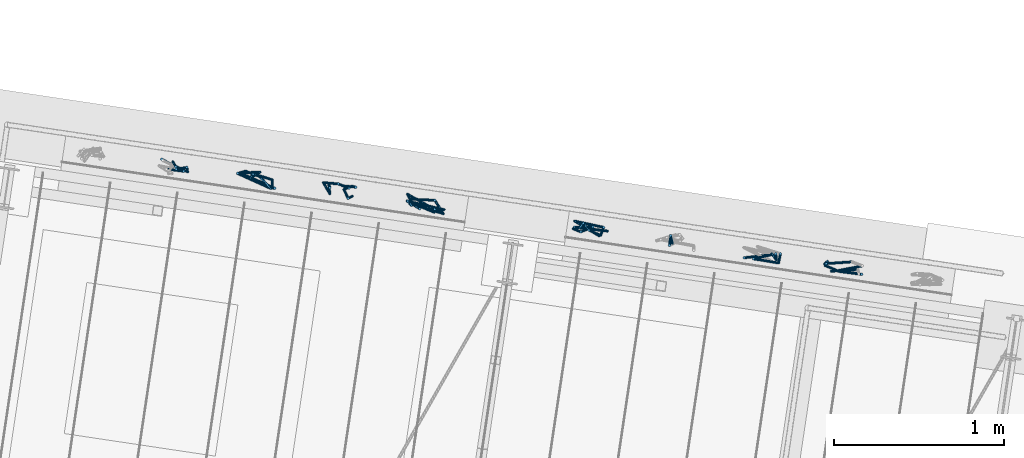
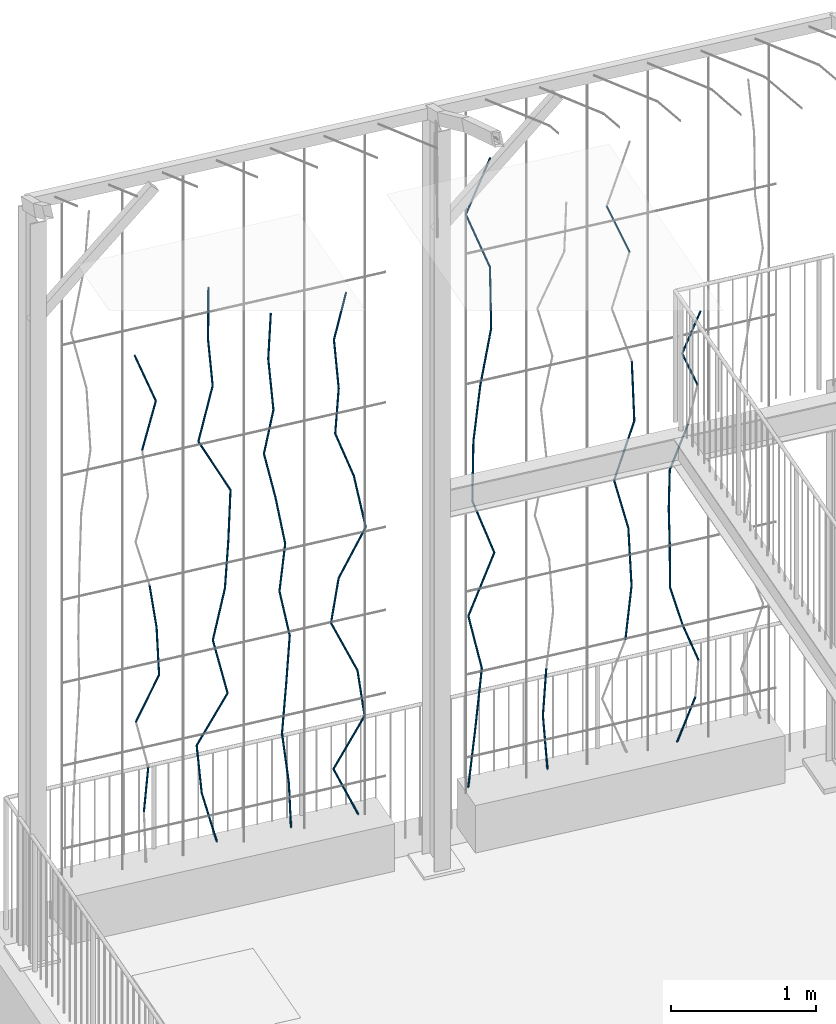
# One storey, part 109 of 142: 67 members, 1 element without a shape of its own.
"""IFC4 building model written with IfcOpenShell, lengths in metres."""

import ifcopenshell
import ifcopenshell.guid

model = None  # the IFC model being written
_history = None  # IfcOwnerHistory: only IFC2X3 demands one
_inside = {}  # id of a spatial element -> (the spatial element, [elements in it])
_under = {}  # id of a project, library or spatial element -> (it, [spatial elements below it])
_declared = {}  # id of a project -> (the project, [libraries it declares])
_typed = {}  # id of a type object -> (the type object, [elements of that type])
_made_of = {}  # id of a material, layer set ... -> (it, [elements and type objects made of it])


def new_model(schema):
    """Start an empty IFC model of exactly this schema.

    Asked for "IFC4X3", IfcOpenShell would pick the latest addendum, in which some entities
    have other attributes; the version numbers below select the first issue.
    IFC2X3 requires an IfcOwnerHistory on every rooted entity: one is made here for all.
    """
    global model, _history
    if schema == "IFC4X3":
        model = ifcopenshell.file(schema_version=(4, 3, 0, 0))
    else:
        model = ifcopenshell.file(schema=schema)
    _inside.clear()
    _under.clear()
    _declared.clear()
    _typed.clear()
    _made_of.clear()
    _history = None
    if model.schema == "IFC2X3":
        org = make("IfcOrganization", Name="unknown")
        user = make(
            "IfcPersonAndOrganization",
            ThePerson=make("IfcPerson", FamilyName="unknown"),
            TheOrganization=org,
        )
        app = make(
            "IfcApplication",
            ApplicationDeveloper=org,
            Version="unknown",
            ApplicationFullName="unknown",
            ApplicationIdentifier="unknown",
        )
        _history = make(
            "IfcOwnerHistory",
            OwningUser=user,
            OwningApplication=app,
            ChangeAction="ADDED",
            CreationDate=0,
        )
    return model


def make(cls, **values):
    """One entity of the class cls with the attributes given. An attribute that is None is left unset."""
    return model.create_entity(
        cls, **{name: value for name, value in values.items() if value is not None}
    )


def rooted(cls, **values):
    """An entity with a GlobalId (a new one), such as an element, a storey or a relation."""
    return make(cls, GlobalId=ifcopenshell.guid.new(), OwnerHistory=_history, **values)


def si_unit(unit_type, name, prefix=None):
    """IfcSIUnit, for example si_unit("LENGTHUNIT", "METRE", prefix="MILLI")."""
    return make("IfcSIUnit", UnitType=unit_type, Prefix=prefix, Name=name)


def assignment(units):
    """IfcUnitAssignment: the units of a project."""
    return None if units is None else make("IfcUnitAssignment", Units=units)


def point(xyz):
    """IfcCartesianPoint."""
    return None if xyz is None else make("IfcCartesianPoint", Coordinates=xyz)


def direction(xyz):
    """IfcDirection."""
    return None if xyz is None else make("IfcDirection", DirectionRatios=xyz)


def frame(location, z_axis=None, x_axis=None):
    """IfcAxis2Placement3D, a coordinate frame: its origin and axes. An axis left out is left unset."""
    return make(
        "IfcAxis2Placement3D",
        Location=point(location),
        Axis=direction(z_axis),
        RefDirection=direction(x_axis),
    )


def origin_with_axes():
    """The frame at (0, 0, 0) with the z axis (0, 0, 1) and the x axis (1, 0, 0) written out."""
    return frame((0.0, 0.0, 0.0), z_axis=(0.0, 0.0, 1.0), x_axis=(1.0, 0.0, 0.0))


def place(relative_to, where):
    """IfcLocalPlacement: puts the frame where relative to a parent placement (None: the world)."""
    return make(
        "IfcLocalPlacement", PlacementRelTo=relative_to, RelativePlacement=where
    )


def context(
    kind, dimensions, precision=None, world=None, true_north=None, identifier=None
):
    """IfcGeometricRepresentationContext, for example the 3D "Model" context."""
    return make(
        "IfcGeometricRepresentationContext",
        ContextIdentifier=identifier,
        ContextType=kind,
        CoordinateSpaceDimension=dimensions,
        Precision=precision,
        WorldCoordinateSystem=world,
        TrueNorth=true_north,
    )


def subcontext(parent, identifier, kind, view, scale=None):
    """IfcGeometricRepresentationSubContext, for example "Body" below "Model"."""
    return make(
        "IfcGeometricRepresentationSubContext",
        ContextIdentifier=identifier,
        ContextType=kind,
        ParentContext=parent,
        TargetScale=scale,
        TargetView=view,
    )


def project(units=None, contexts=None):
    """IfcProject with its units and contexts."""
    return rooted(
        "IfcProject",
        Name="project",
        RepresentationContexts=contexts,
        UnitsInContext=assignment(units),
    )


def spatial(cls, under=None, at=None, **own):
    """A site, building, storey or space (cls), placed at a placement, below another one or the project."""
    s = rooted(cls, ObjectPlacement=at, **own)
    if under is not None:
        _under.setdefault(under.id(), (under, []))[1].append(s)
    return s


def profile(cls, at=None, kind="AREA", **sizes):
    """A parametric profile (cls). Its sizes go by their IFC names, for example OverallWidth=200.0."""
    return make(cls, ProfileType=kind, Position=at, **sizes)


def circle(**sizes):
    """IfcCircleProfileDef."""
    return profile("IfcCircleProfileDef", **sizes)


def extrude(swept, where, along, depth):
    """IfcExtrudedAreaSolid: the profile swept, set in the frame where, extruded along a direction by depth."""
    return make(
        "IfcExtrudedAreaSolid",
        SweptArea=swept,
        Position=where,
        ExtrudedDirection=direction(along),
        Depth=depth,
    )


def shape(context_of_items, identifier, shape_type, items):
    """IfcShapeRepresentation: the items that make up one representation, for example the "Body"."""
    return make(
        "IfcShapeRepresentation",
        ContextOfItems=context_of_items,
        RepresentationIdentifier=identifier,
        RepresentationType=shape_type,
        Items=items,
    )


def material(Name=None, Category=None):
    """IfcMaterial."""
    return make("IfcMaterial", Name=Name, Category=Category)


def material_profile(
    of_material, cross_section, Name=None, Category=None, Priority=None
):
    """IfcMaterialProfile: a cross section and its material."""
    return make(
        "IfcMaterialProfile",
        Name=Name,
        Material=of_material,
        Profile=cross_section,
        Priority=Priority,
        Category=Category,
    )


def profile_set(profiles, Name=None, composite=None):
    """IfcMaterialProfileSet."""
    return make(
        "IfcMaterialProfileSet",
        Name=Name,
        MaterialProfiles=profiles,
        CompositeProfile=composite,
    )


def profile_usage(for_profile_set, cardinal=None, extent=None):
    """IfcMaterialProfileSetUsage: how a profile set lies along its element."""
    return make(
        "IfcMaterialProfileSetUsage",
        ForProfileSet=for_profile_set,
        CardinalPoint=cardinal,
        ReferenceExtent=extent,
    )


def made_of(thing, what):
    """Note that an element or type object is made of a material, layer set ...; save() writes the relation."""
    if what is not None:
        _made_of.setdefault(what.id(), (what, []))[1].append(thing)
    return thing


def type_object(cls, material=None, **own):
    """A type object (cls), such as IfcWallType, which elements share."""
    return made_of(rooted(cls, **own), material)


def element(
    cls,
    number,
    at=None,
    inside=None,
    cuts=None,
    type_object=None,
    material=None,
    context=None,
    identifier="Body",
    shape_type=None,
    held_by="IfcProductDefinitionShape",
    body=None,
    shapes=None,
    **own,
):
    """One element of the class cls, such as IfcWall. Its Tag is "e" and its number.

    at: its placement. inside: the storey or other place that contains it. cuts: it is an
    opening in that element (IfcRelVoidsElement). A single representation is given by context,
    identifier, shape_type and body (its items); several are given by shapes. held_by: the class
    of the entity that holds the representations. save() writes the other relations.
    """
    e = rooted(cls, Tag="e%d" % number, ObjectPlacement=at, **own)
    if body is not None:
        shapes = [shape(context, identifier, shape_type, body)]
    if shapes is not None:
        e.Representation = make(held_by, Representations=shapes)
    if inside is not None:
        _inside.setdefault(inside.id(), (inside, []))[1].append(e)
    if cuts is not None:
        rooted(
            "IfcRelVoidsElement", RelatingBuildingElement=cuts, RelatedOpeningElement=e
        )
    if type_object is not None:
        _typed.setdefault(type_object.id(), (type_object, []))[1].append(e)
    return made_of(e, material)


def aggregate(whole, parts):
    """IfcRelAggregates: a whole, such as a stair, and the parts it consists of."""
    return rooted("IfcRelAggregates", RelatingObject=whole, RelatedObjects=parts)


def save(model, path):
    """Write the relations noted so far, then the file.

    IfcRelAggregates (storeys below a building ...), IfcRelContainedInSpatialStructure (elements
    in a storey), IfcRelDefinesByType, IfcRelAssociatesMaterial and IfcRelDeclares: one each for
    every whole, place, type object, material and project.
    """
    for whole, parts in _under.values():
        aggregate(whole, parts)
    for where, things in _inside.values():
        rooted(
            "IfcRelContainedInSpatialStructure",
            RelatedElements=things,
            RelatingStructure=where,
        )
    for kind, things in _typed.values():
        rooted("IfcRelDefinesByType", RelatedObjects=things, RelatingType=kind)
    for what, things in _made_of.values():
        rooted("IfcRelAssociatesMaterial", RelatedObjects=things, RelatingMaterial=what)
    for by, libraries in _declared.values():
        rooted("IfcRelDeclares", RelatingContext=by, RelatedDefinitions=libraries)
    model.write(path)


model = new_model("IFC4")

# Units and contexts
model_context = context("Model", 3, precision=1e-05, world=origin_with_axes(), true_north=direction((0.0, 1.0)))
body_context = subcontext(model_context, "Body", "Model", "MODEL_VIEW")
ifc_project = project(units=[si_unit("VOLUMEUNIT", "CUBIC_METRE"), si_unit("LENGTHUNIT", "METRE"), si_unit("AREAUNIT", "SQUARE_METRE")], contexts=[model_context])

# Site, building, storey
site_placement = place(None, origin_with_axes())
site = spatial("IfcSite", under=ifc_project, at=site_placement, Name="Lares · Rua das Mercês · artigo 4771")
building_placement = place(site_placement, frame((12.0, 10.2, 13.9), z_axis=(0.0, 0.0, 1.0), x_axis=(0.989015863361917, -0.147809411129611, 0.0)))
building = spatial("IfcBuilding", under=site, at=building_placement, Name="Casa Sobreposta")
storey_placement = place(building_placement, origin_with_axes())
storey = spatial("IfcBuildingStorey", under=building, at=storey_placement, Name="00 · Habitação e estacionamento", Elevation=13.9)

# Assembly, members
assembly_placement = place(storey_placement, origin_with_axes())
assembly = element("IfcElementAssembly", 1, at=assembly_placement, inside=storey, Name="Fachada sul e pátio · estrutura e trepadeiras", ObjectType="LIVING_SHADE_TRELLIS", PredefinedType="USERDEFINED")
ifc_material = material(Name="Ramos de trepadeiras", Category="wood")
ifc_material_profile = material_profile(ifc_material, circle(Radius=0.0075))
ifc_profile_set = profile_set([ifc_material_profile], Name="D0.015")
ifc_profile_usage_1 = profile_usage(ifc_profile_set)
member_type = type_object("IfcMemberType", Name="D0.015 / vine_wood", PredefinedType="NOTDEFINED", material=ifc_profile_set)
member_1_placement = place(assembly_placement, frame((-5.05351931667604, 6.57821187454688, 0.736166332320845), z_axis=(0.0556737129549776, -0.068234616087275, 0.996114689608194), x_axis=(-0.774817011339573, -0.632185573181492, 0.0)))
member_1 = element("IfcMember", 2, at=member_1_placement, type_object=member_type, material=ifc_profile_usage_1, Name="Trepadeiras · ramo", context=body_context, shape_type="SweptSolid", body=[
    extrude(circle(Radius=0.0075), origin_with_axes(), (0.0, 0.0, 1.0), 0.387672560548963),
])
ifc_profile_usage_2 = profile_usage(ifc_profile_set)
member_2_placement = place(assembly_placement, frame((-5.11315277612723, 6.57770099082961, 1.50849899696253), z_axis=(0.369026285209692, -0.107377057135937, 0.923195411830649), x_axis=(-0.279387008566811, -0.960178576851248, -1.66678120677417e-17)))
member_2 = element("IfcMember", 3, at=member_2_placement, type_object=member_type, material=ifc_profile_usage_2, Name="Trepadeiras · ramo", context=body_context, shape_type="SweptSolid", body=[
    extrude(circle(Radius=0.0075), origin_with_axes(), (0.0, 0.0, 1.0), 0.41829316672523),
])
ifc_profile_usage_3 = profile_usage(ifc_profile_set)
member_3_placement = place(assembly_placement, frame((-4.95879160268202, 6.53278590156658, 1.89466532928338), z_axis=(-0.0229513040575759, 0.0642605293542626, 0.997669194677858), x_axis=(0.941736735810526, 0.336350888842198, 3.17038529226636e-18)))
member_3 = element("IfcMember", 4, at=member_3_placement, type_object=member_type, material=ifc_profile_usage_3, Name="Trepadeiras · ramo", context=body_context, shape_type="SweptSolid", body=[
    extrude(circle(Radius=0.0075), origin_with_axes(), (0.0, 0.0, 1.0), 0.387068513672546),
])
ifc_profile_usage_4 = profile_usage(ifc_profile_set)
member_4_placement = place(assembly_placement, frame((-4.96767532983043, 6.55765912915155, 2.28083166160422), z_axis=(-0.154656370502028, -0.0516676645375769, 0.986616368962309), x_axis=(-0.316865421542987, 0.948470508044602, 0.0)))
member_4 = element("IfcMember", 5, at=member_4_placement, type_object=member_type, material=ifc_profile_usage_4, Name="Trepadeiras · ramo", context=body_context, shape_type="SweptSolid", body=[
    extrude(circle(Radius=0.0075), origin_with_axes(), (0.0, 0.0, 1.0), 0.391404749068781),
])
ifc_profile_usage_5 = profile_usage(ifc_profile_set)
member_5_placement = place(assembly_placement, frame((-5.08541268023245, 6.53013009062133, 3.8254969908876), z_axis=(0.256565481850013, 0.00653359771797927, 0.966504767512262), x_axis=(0.0254573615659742, -0.999675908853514, 0.0)))
member_5 = element("IfcMember", 6, at=member_5_placement, type_object=member_type, material=ifc_profile_usage_5, Name="Trepadeiras · ramo", context=body_context, shape_type="SweptSolid", body=[
    extrude(circle(Radius=0.0075), origin_with_axes(), (0.0, 0.0, 1.0), 0.39954933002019),
])
ifc_profile_usage_6 = profile_usage(ifc_profile_set)
member_6_placement = place(assembly_placement, frame((-4.98290211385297, 6.53274058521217, 4.21166332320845), z_axis=(-0.333263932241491, 0.122975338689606, 0.934779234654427), x_axis=(0.346185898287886, 0.938165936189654, 0.0)))
member_6 = element("IfcMember", 7, at=member_6_placement, type_object=member_type, material=ifc_profile_usage_6, Name="Trepadeiras · ramo", context=body_context, shape_type="SweptSolid", body=[
    extrude(circle(Radius=0.0075), origin_with_axes(), (0.0, 0.0, 1.0), 0.413109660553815),
])
ifc_profile_usage_7 = profile_usage(ifc_profile_set)
member_7_placement = place(assembly_placement, frame((-4.516484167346, 6.56319348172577, 0.35), z_axis=(-0.237502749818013, 0.0547067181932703, 0.969845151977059), x_axis=(0.224463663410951, 0.974482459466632, 0.0)))
member_7 = element("IfcMember", 8, at=member_7_placement, type_object=member_type, material=ifc_profile_usage_7, Name="Trepadeiras · ramo", context=body_context, shape_type="SweptSolid", body=[
    extrude(circle(Radius=0.0075), origin_with_axes(), (0.0, 0.0, 1.0), 0.439365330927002),
])
ifc_profile_usage_8 = profile_usage(ifc_profile_set)
member_8_placement = place(assembly_placement, frame((-4.62083464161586, 6.58722971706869, 0.776116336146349), z_axis=(-0.106307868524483, -0.0477073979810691, 0.993188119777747), x_axis=(-0.409428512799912, 0.912342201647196, 0.0)))
member_8 = element("IfcMember", 9, at=member_8_placement, type_object=member_type, material=ifc_profile_usage_8, Name="Trepadeiras · ramo", context=body_context, shape_type="SweptSolid", body=[
    extrude(circle(Radius=0.0075), origin_with_axes(), (0.0, 0.0, 1.0), 0.429038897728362),
])
ifc_profile_usage_9 = profile_usage(ifc_profile_set)
member_9_placement = place(assembly_placement, frame((-4.66644485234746, 6.5667613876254, 1.2022326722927), z_axis=(0.43290575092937, -0.123104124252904, 0.892993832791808), x_axis=(-0.273522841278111, -0.961865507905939, 0.0)))
member_9 = element("IfcMember", 10, at=member_9_placement, type_object=member_type, material=ifc_profile_usage_9, Name="Trepadeiras · ramo", context=body_context, shape_type="SweptSolid", body=[
    extrude(circle(Radius=0.0075), origin_with_axes(), (0.0, 0.0, 1.0), 0.47717724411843),
])
ifc_profile_usage_10 = profile_usage(ifc_profile_set)
member_10_placement = place(assembly_placement, frame((-4.45987207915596, 6.50801890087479, 1.62834900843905), z_axis=(-0.190491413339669, 0.14988591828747, 0.970178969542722), x_axis=(0.618367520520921, 0.785889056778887, 0.0)))
member_10 = element("IfcMember", 11, at=member_10_placement, type_object=member_type, material=ifc_profile_usage_10, Name="Trepadeiras · ramo", context=body_context, shape_type="SweptSolid", body=[
    extrude(circle(Radius=0.0075), origin_with_axes(), (0.0, 0.0, 1.0), 0.43921415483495),
])
ifc_profile_usage_11 = profile_usage(ifc_profile_set)
member_11_placement = place(assembly_placement, frame((-4.54353860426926, 6.57385091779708, 2.0544653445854), z_axis=(0.1941509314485, -0.0330556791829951, 0.980414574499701), x_axis=(-0.167842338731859, -0.985813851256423, -4.3178291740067e-18)))
member_11 = element("IfcMember", 12, at=member_11_placement, type_object=member_type, material=ifc_profile_usage_11, Name="Trepadeiras · ramo", context=body_context, shape_type="SweptSolid", body=[
    extrude(circle(Radius=0.0075), origin_with_axes(), (0.0, 0.0, 1.0), 0.434628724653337),
])
ifc_profile_usage_12 = profile_usage(ifc_profile_set)
member_12_placement = place(assembly_placement, frame((-4.45915503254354, 6.55948397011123, 2.48058168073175), z_axis=(0.0144929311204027, -0.109943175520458, 0.993832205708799), x_axis=(-0.991423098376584, -0.130691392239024, 0.0)))
member_12 = element("IfcMember", 13, at=member_12_placement, type_object=member_type, material=ifc_profile_usage_12, Name="Trepadeiras · ramo", context=body_context, shape_type="SweptSolid", body=[
    extrude(circle(Radius=0.0075), origin_with_axes(), (0.0, 0.0, 1.0), 0.428760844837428),
])
ifc_profile_usage_13 = profile_usage(ifc_profile_set)
member_13_placement = place(assembly_placement, frame((-4.45294103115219, 6.51234464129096, 2.90669801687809), z_axis=(0.0391360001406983, 0.00180597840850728, 0.999232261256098), x_axis=(0.999233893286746, -7.07329602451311e-05, -0.0391359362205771)))
member_13 = element("IfcMember", 14, at=member_13_placement, type_object=member_type, material=ifc_profile_usage_13, Name="Trepadeiras · ramo", context=body_context, shape_type="SweptSolid", body=[
    extrude(circle(Radius=0.0075), origin_with_axes(), (0.0, 0.0, 1.0), 0.426443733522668),
])
ifc_profile_usage_14 = profile_usage(ifc_profile_set)
member_14_placement = place(assembly_placement, frame((-4.43625172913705, 6.51311478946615, 3.33281435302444), z_axis=(-0.448214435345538, 0.121140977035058, 0.885679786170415), x_axis=(0.26091291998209, 0.965362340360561, 0.0)))
member_14 = element("IfcMember", 15, at=member_14_placement, type_object=member_type, material=ifc_profile_usage_14, Name="Trepadeiras · ramo", context=body_context, shape_type="SweptSolid", body=[
    extrude(circle(Radius=0.0075), origin_with_axes(), (0.0, 0.0, 1.0), 0.481117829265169),
])
ifc_profile_usage_15 = profile_usage(ifc_profile_set)
member_15_placement = place(assembly_placement, frame((-4.6518956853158, 6.57139787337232, 3.75893068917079), z_axis=(0.26034641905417, 0.0511473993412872, 0.964159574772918), x_axis=(0.192774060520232, -0.981243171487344, 0.0)))
member_15 = element("IfcMember", 16, at=member_15_placement, type_object=member_type, material=ifc_profile_usage_15, Name="Trepadeiras · ramo", context=body_context, shape_type="SweptSolid", body=[
    extrude(circle(Radius=0.0075), origin_with_axes(), (0.0, 0.0, 1.0), 0.441956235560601),
])
ifc_profile_usage_16 = profile_usage(ifc_profile_set)
member_16_placement = place(assembly_placement, frame((-4.53683396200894, 6.59400278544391, 4.18504702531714), z_axis=(-0.11744994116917, -0.0987498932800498, 0.988156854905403), x_axis=(-0.643543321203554, 0.765409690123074, 0.0)))
member_16 = element("IfcMember", 17, at=member_16_placement, type_object=member_type, material=ifc_profile_usage_16, Name="Trepadeiras · ramo", context=body_context, shape_type="SweptSolid", body=[
    extrude(circle(Radius=0.0075), origin_with_axes(), (0.0, 0.0, 1.0), 0.431223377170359),
])
ifc_profile_usage_17 = profile_usage(ifc_profile_set)
member_17_placement = place(assembly_placement, frame((-4.58748112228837, 6.55141952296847, 4.61116336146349), z_axis=(0.0271477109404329, 0.0579863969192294, 0.997948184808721), x_axis=(0.905659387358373, -0.424005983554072, 0.0)))
member_17 = element("IfcMember", 18, at=member_17_placement, type_object=member_type, material=ifc_profile_usage_17, Name="Trepadeiras · ramo", context=body_context, shape_type="SweptSolid", body=[
    extrude(circle(Radius=0.0075), origin_with_axes(), (0.0, 0.0, 1.0), 0.426992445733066),
])
ifc_profile_usage_18 = profile_usage(ifc_profile_set)
member_18_placement = place(assembly_placement, frame((-3.97859289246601, 6.53402138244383, 0.35), z_axis=(-0.0559624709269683, -0.0404002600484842, 0.997615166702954), x_axis=(-0.585327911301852, 0.810796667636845, 0.0)))
member_18 = element("IfcMember", 19, at=member_18_placement, type_object=member_type, material=ifc_profile_usage_18, Name="Trepadeiras · ramo", context=body_context, shape_type="SweptSolid", body=[
    extrude(circle(Radius=0.0075), origin_with_axes(), (0.0, 0.0, 1.0), 0.397059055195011),
])
ifc_profile_usage_19 = profile_usage(ifc_profile_set)
member_19_placement = place(assembly_placement, frame((-4.00081329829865, 6.51798009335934, 0.746112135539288), z_axis=(-0.0802060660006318, 0.119900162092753, 0.989540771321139), x_axis=(0.831177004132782, 0.556007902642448, 0.0)))
member_19 = element("IfcMember", 20, at=member_19_placement, type_object=member_type, material=ifc_profile_usage_19, Name="Trepadeiras · ramo", context=body_context, shape_type="SweptSolid", body=[
    extrude(circle(Radius=0.0075), origin_with_axes(), (0.0, 0.0, 1.0), 0.400298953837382),
])
ifc_profile_usage_20 = profile_usage(ifc_profile_set)
member_20_placement = place(assembly_placement, frame((-4.03291970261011, 6.56597600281, 1.14222427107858), z_axis=(0.104885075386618, 0.0666123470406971, 0.992250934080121), x_axis=(0.536115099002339, -0.844144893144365, 0.0)))
member_20 = element("IfcMember", 21, at=member_20_placement, type_object=member_type, material=ifc_profile_usage_20, Name="Trepadeiras · ramo", context=body_context, shape_type="SweptSolid", body=[
    extrude(circle(Radius=0.0075), origin_with_axes(), (0.0, 0.0, 1.0), 0.399205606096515),
])
ifc_profile_usage_21 = profile_usage(ifc_profile_set)
member_21_placement = place(assembly_placement, frame((-3.99104899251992, 6.5925680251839, 1.53833640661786), z_axis=(0.0626536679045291, -0.00712374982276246, 0.998009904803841), x_axis=(-0.112972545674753, -0.993598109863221, 0.0)))
member_21 = element("IfcMember", 22, at=member_21_placement, type_object=member_type, material=ifc_profile_usage_21, Name="Trepadeiras · ramo", context=body_context, shape_type="SweptSolid", body=[
    extrude(circle(Radius=0.0075), origin_with_axes(), (0.0, 0.0, 1.0), 0.396902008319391),
])
ifc_profile_usage_22 = profile_usage(ifc_profile_set)
member_22_placement = place(assembly_placement, frame((-3.96618162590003, 6.58974059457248, 1.93444854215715), z_axis=(-0.192543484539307, -0.00909052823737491, 0.981246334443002), x_axis=(-0.0471603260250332, 0.998887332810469, 0.0)))
member_22 = element("IfcMember", 23, at=member_22_placement, type_object=member_type, material=ifc_profile_usage_22, Name="Trepadeiras · ramo", context=body_context, shape_type="SweptSolid", body=[
    extrude(circle(Radius=0.0075), origin_with_axes(), (0.0, 0.0, 1.0), 0.403682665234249),
])
ifc_profile_usage_23 = profile_usage(ifc_profile_set)
member_23_placement = place(assembly_placement, frame((-4.04390809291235, 6.58607090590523, 2.33056067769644), z_axis=(0.0995202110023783, -0.0194869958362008, 0.99484470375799), x_axis=(-0.192160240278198, -0.981363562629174, 0.0)))
member_23 = element("IfcMember", 24, at=member_23_placement, type_object=member_type, material=ifc_profile_usage_23, Name="Trepadeiras · ramo", context=body_context, shape_type="SweptSolid", body=[
    extrude(circle(Radius=0.0075), origin_with_axes(), (0.0, 0.0, 1.0), 0.398164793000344),
])
ifc_profile_usage_24 = profile_usage(ifc_profile_set)
member_24_placement = place(assembly_placement, frame((-4.00428264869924, 6.57831187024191, 2.72667281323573), z_axis=(-0.164761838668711, 0.0378014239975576, 0.985608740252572), x_axis=(0.223620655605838, 0.974676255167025, 0.0)))
member_24 = element("IfcMember", 25, at=member_24_placement, type_object=member_type, material=ifc_profile_usage_24, Name="Trepadeiras · ramo", context=body_context, shape_type="SweptSolid", body=[
    extrude(circle(Radius=0.0075), origin_with_axes(), (0.0, 0.0, 1.0), 0.401895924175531),
])
ifc_profile_usage_25 = profile_usage(ifc_profile_set)
member_25_placement = place(assembly_placement, frame((-4.07049976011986, 6.59350410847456, 3.12278494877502), z_axis=(-0.217023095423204, -0.0139242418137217, 0.976067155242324), x_axis=(-0.0640285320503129, 0.997948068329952, 0.0)))
member_25 = element("IfcMember", 26, at=member_25_placement, type_object=member_type, material=ifc_profile_usage_25, Name="Trepadeiras · ramo", context=body_context, shape_type="SweptSolid", body=[
    extrude(circle(Radius=0.0075), origin_with_axes(), (0.0, 0.0, 1.0), 0.405824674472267),
])
ifc_profile_usage_26 = profile_usage(ifc_profile_set)
member_26_placement = place(assembly_placement, frame((-4.15857308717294, 6.58785330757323, 3.51889708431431), z_axis=(0.117355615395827, -0.146977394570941, 0.982153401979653), x_axis=(-0.781455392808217, -0.623961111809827, 0.0)))
member_26 = element("IfcMember", 27, at=member_26_placement, type_object=member_type, material=ifc_profile_usage_26, Name="Trepadeiras · ramo", context=body_context, shape_type="SweptSolid", body=[
    extrude(circle(Radius=0.0075), origin_with_axes(), (0.0, 0.0, 1.0), 0.40330984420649),
])
ifc_profile_usage_27 = profile_usage(ifc_profile_set)
member_27_placement = place(assembly_placement, frame((-4.1112424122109, 6.52857587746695, 3.91500921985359), z_axis=(-0.038247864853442, 0.148096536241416, 0.988233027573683), x_axis=(0.968230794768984, 0.250058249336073, 0.0)))
member_27 = element("IfcMember", 28, at=member_27_placement, type_object=member_type, material=ifc_profile_usage_27, Name="Trepadeiras · ramo", context=body_context, shape_type="SweptSolid", body=[
    extrude(circle(Radius=0.0075), origin_with_axes(), (0.0, 0.0, 1.0), 0.400828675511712),
])
ifc_profile_usage_28 = profile_usage(ifc_profile_set)
member_28_placement = place(assembly_placement, frame((-4.12657325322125, 6.58793721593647, 4.31112135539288), z_axis=(0.0245630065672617, -0.0592559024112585, 0.997940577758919), x_axis=(-0.923778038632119, -0.382928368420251, 0.0)))
member_28 = element("IfcMember", 29, at=member_28_placement, type_object=member_type, material=ifc_profile_usage_28, Name="Trepadeiras · ramo", context=body_context, shape_type="SweptSolid", body=[
    extrude(circle(Radius=0.0075), origin_with_axes(), (0.0, 0.0, 1.0), 0.396929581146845),
])
ifc_profile_usage_29 = profile_usage(ifc_profile_set)
member_29_placement = place(assembly_placement, frame((-3.48595036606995, 6.51152451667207, 0.35), z_axis=(-0.387050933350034, 0.0963177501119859, 0.917013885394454), x_axis=(0.2414854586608, 0.970404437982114, 0.0)))
member_29 = element("IfcMember", 30, at=member_29_placement, type_object=member_type, material=ifc_profile_usage_29, Name="Trepadeiras · ramo", context=body_context, shape_type="SweptSolid", body=[
    extrude(circle(Radius=0.0075), origin_with_axes(), (0.0, 0.0, 1.0), 0.438608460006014),
])
ifc_profile_usage_30 = profile_usage(ifc_profile_set)
member_30_placement = place(assembly_placement, frame((-3.6557141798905, 6.55377029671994, 0.752210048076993), z_axis=(0.486269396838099, -0.0394758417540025, 0.872916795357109), x_axis=(-0.0809148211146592, -0.996721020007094, -6.2076865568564e-18)))
member_30 = element("IfcMember", 31, at=member_30_placement, type_object=member_type, material=ifc_profile_usage_30, Name="Trepadeiras · ramo", context=body_context, shape_type="SweptSolid", body=[
    extrude(circle(Radius=0.0075), origin_with_axes(), (0.0, 0.0, 1.0), 0.46076561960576),
])
ifc_profile_usage_31 = profile_usage(ifc_profile_set)
member_31_placement = place(assembly_placement, frame((-3.43165795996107, 6.53558118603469, 1.15442009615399), z_axis=(-0.13611773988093, -0.0169348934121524, 0.990547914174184), x_axis=(-0.123461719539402, 0.992349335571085, 0.0)))
member_31 = element("IfcMember", 32, at=member_31_placement, type_object=member_type, material=ifc_profile_usage_31, Name="Trepadeiras · ramo", context=body_context, shape_type="SweptSolid", body=[
    extrude(circle(Radius=0.0075), origin_with_axes(), (0.0, 0.0, 1.0), 0.406048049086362),
])
ifc_profile_usage_32 = profile_usage(ifc_profile_set)
member_32_placement = place(assembly_placement, frame((-3.48692830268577, 6.5287048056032, 1.55663014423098), z_axis=(-0.387536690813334, 0.147038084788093, 0.910052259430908), x_axis=(0.354741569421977, 0.934964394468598, 0.0)))
member_32 = element("IfcMember", 33, at=member_32_placement, type_object=member_type, material=ifc_profile_usage_32, Name="Trepadeiras · ramo", context=body_context, shape_type="SweptSolid", body=[
    extrude(circle(Radius=0.0075), origin_with_axes(), (0.0, 0.0, 1.0), 0.441963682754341),
])
ifc_profile_usage_33 = profile_usage(ifc_profile_set)
member_33_placement = place(assembly_placement, frame((-3.65820544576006, 6.59369029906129, 1.95884019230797), z_axis=(0.0899888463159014, -0.125264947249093, 0.98803375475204), x_axis=(-0.81215464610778, -0.583442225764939, 0.0)))
member_33 = element("IfcMember", 34, at=member_33_placement, type_object=member_type, material=ifc_profile_usage_33, Name="Trepadeiras · ramo", context=body_context, shape_type="SweptSolid", body=[
    extrude(circle(Radius=0.0075), origin_with_axes(), (0.0, 0.0, 1.0), 0.407081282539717),
])
ifc_profile_usage_34 = profile_usage(ifc_profile_set)
member_34_placement = place(assembly_placement, frame((-3.62157267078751, 6.54269728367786, 2.36105024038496), z_axis=(0.423820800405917, -0.0706905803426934, 0.902983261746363), x_axis=(-0.164520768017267, -0.98637361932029, 0.0)))
member_34 = element("IfcMember", 35, at=member_34_placement, type_object=member_type, material=ifc_profile_usage_34, Name="Trepadeiras · ramo", context=body_context, shape_type="SweptSolid", body=[
    extrude(circle(Radius=0.0075), origin_with_axes(), (0.0, 0.0, 1.0), 0.445423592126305),
])
ifc_profile_usage_35 = profile_usage(ifc_profile_set)
member_35_placement = place(assembly_placement, frame((-3.43279288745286, 6.51121003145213, 2.76326028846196), z_axis=(-0.146521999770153, 0.171712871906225, 0.974189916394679), x_axis=(0.760700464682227, 0.649103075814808, 0.0)))
member_35 = element("IfcMember", 36, at=member_35_placement, type_object=member_type, material=ifc_profile_usage_35, Name="Trepadeiras · ramo", context=body_context, shape_type="SweptSolid", body=[
    extrude(circle(Radius=0.0075), origin_with_axes(), (0.0, 0.0, 1.0), 0.412866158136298),
])
ifc_profile_usage_36 = profile_usage(ifc_profile_set)
member_36_placement = place(assembly_placement, frame((-3.49328686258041, 6.5821044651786, 3.16547033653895), z_axis=(-0.337061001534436, -0.0347303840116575, 0.940842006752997), x_axis=(-0.102496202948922, 0.99473339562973, 0.0)))
member_36 = element("IfcMember", 37, at=member_36_placement, type_object=member_type, material=ifc_profile_usage_36, Name="Trepadeiras · ramo", context=body_context, shape_type="SweptSolid", body=[
    extrude(circle(Radius=0.0075), origin_with_axes(), (0.0, 0.0, 1.0), 0.427500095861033),
])
ifc_profile_usage_37 = profile_usage(ifc_profile_set)
member_37_placement = place(assembly_placement, frame((-3.6373804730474, 6.56725722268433, 3.56768038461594), z_axis=(0.0295589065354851, -0.0886838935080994, 0.995621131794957), x_axis=(-0.948690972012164, -0.316204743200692, 0.0)))
member_37 = element("IfcMember", 38, at=member_37_placement, type_object=member_type, material=ifc_profile_usage_37, Name="Trepadeiras · ramo", context=body_context, shape_type="SweptSolid", body=[
    extrude(circle(Radius=0.0075), origin_with_axes(), (0.0, 0.0, 1.0), 0.403979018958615),
])
ifc_profile_usage_38 = profile_usage(ifc_profile_set)
member_38_placement = place(assembly_placement, frame((-3.62543929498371, 6.5314307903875, 3.96989043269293), z_axis=(-0.0654752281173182, 0.056205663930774, 0.9962700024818), x_axis=(0.651352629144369, 0.758775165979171, 0.0)))
member_38 = element("IfcMember", 39, at=member_38_placement, type_object=member_type, material=ifc_profile_usage_38, Name="Trepadeiras · ramo", context=body_context, shape_type="SweptSolid", body=[
    extrude(circle(Radius=0.0075), origin_with_axes(), (0.0, 0.0, 1.0), 0.403715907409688),
])
ifc_profile_usage_39 = profile_usage(ifc_profile_set)
member_39_placement = place(assembly_placement, frame((-3.65187268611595, 6.55412191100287, 4.37210048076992), z_axis=(0.186629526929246, -0.0839762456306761, 0.978834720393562), x_axis=(-0.410336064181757, -0.911934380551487, 0.0)))
member_39 = element("IfcMember", 40, at=member_39_placement, type_object=member_type, material=ifc_profile_usage_39, Name="Trepadeiras · ramo", context=body_context, shape_type="SweptSolid", body=[
    extrude(circle(Radius=0.0075), origin_with_axes(), (0.0, 0.0, 1.0), 0.41090700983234),
])
ifc_profile_usage_40 = profile_usage(ifc_profile_set)
member_40_placement = place(assembly_placement, frame((-2.66241995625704, 6.53629999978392, 0.35), z_axis=(0.0980987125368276, -0.0226170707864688, 0.994919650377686), x_axis=(-0.224660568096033, -0.974437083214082, 0.0)))
member_40 = element("IfcMember", 41, at=member_40_placement, type_object=member_type, material=ifc_profile_usage_40, Name="Trepadeiras · ramo", context=body_context, shape_type="SweptSolid", body=[
    extrude(circle(Radius=0.0075), origin_with_axes(), (0.0, 0.0, 1.0), 0.482973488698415),
])
ifc_profile_usage_41 = profile_usage(ifc_profile_set)
member_41_placement = place(assembly_placement, frame((-2.61504087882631, 6.52537655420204, 0.830519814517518), z_axis=(0.135008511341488, 0.0817946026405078, 0.987462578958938), x_axis=(0.518168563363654, -0.855278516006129, 0.0)))
member_41 = element("IfcMember", 42, at=member_41_placement, type_object=member_type, material=ifc_profile_usage_41, Name="Trepadeiras · ramo", context=body_context, shape_type="SweptSolid", body=[
    extrude(circle(Radius=0.0075), origin_with_axes(), (0.0, 0.0, 1.0), 0.486620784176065),
])
ifc_profile_usage_42 = profile_usage(ifc_profile_set)
member_42_placement = place(assembly_placement, frame((-2.54934293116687, 6.56517950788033, 1.31103962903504), z_axis=(-0.218609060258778, -0.0389522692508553, 0.975034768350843), x_axis=(-0.17541938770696, 0.984493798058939, 0.0)))
member_42 = element("IfcMember", 43, at=member_42_placement, type_object=member_type, material=ifc_profile_usage_42, Name="Trepadeiras · ramo", context=body_context, shape_type="SweptSolid", body=[
    extrude(circle(Radius=0.0075), origin_with_axes(), (0.0, 0.0, 1.0), 0.492823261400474),
])
ifc_profile_usage_43 = profile_usage(ifc_profile_set)
member_43_placement = place(assembly_placement, frame((-2.65707856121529, 6.54598292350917, 1.79155944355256), z_axis=(0.376987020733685, 0.0134283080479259, 0.926121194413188), x_axis=(0.0355975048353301, -0.999366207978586, 0.0)))
member_43 = element("IfcMember", 44, at=member_43_placement, type_object=member_type, material=ifc_profile_usage_43, Name="Trepadeiras · ramo", context=body_context, shape_type="SweptSolid", body=[
    extrude(circle(Radius=0.0075), origin_with_axes(), (0.0, 0.0, 1.0), 0.518851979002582),
])
ifc_profile_usage_44 = profile_usage(ifc_profile_set)
member_44_placement = place(assembly_placement, frame((-2.46147809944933, 6.5529502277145, 2.27207925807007), z_axis=(-0.323902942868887, -0.0066980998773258, 0.946066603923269), x_axis=(-0.0206749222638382, 0.999786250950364, 0.0)))
member_44 = element("IfcMember", 45, at=member_44_placement, type_object=member_type, material=ifc_profile_usage_44, Name="Trepadeiras · ramo", context=body_context, shape_type="SweptSolid", body=[
    extrude(circle(Radius=0.0075), origin_with_axes(), (0.0, 0.0, 1.0), 0.507913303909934),
])
ifc_profile_usage_45 = profile_usage(ifc_profile_set)
member_45_placement = place(assembly_placement, frame((-2.62599271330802, 6.54954817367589, 2.75259907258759), z_axis=(0.0384024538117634, 0.0563066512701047, 0.997674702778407), x_axis=(0.826148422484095, -0.563452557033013, 0.0)))
member_45 = element("IfcMember", 46, at=member_45_placement, type_object=member_type, material=ifc_profile_usage_45, Name="Trepadeiras · ramo", context=body_context, shape_type="SweptSolid", body=[
    extrude(circle(Radius=0.0075), origin_with_axes(), (0.0, 0.0, 1.0), 0.481639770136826),
])
ifc_profile_usage_46 = profile_usage(ifc_profile_set)
member_46_placement = place(assembly_placement, frame((-2.60749656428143, 6.57666769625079, 3.23311888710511), z_axis=(0.0776410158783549, -0.0701661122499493, 0.994509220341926), x_axis=(-0.670490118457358, -0.741918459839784, 0.0)))
member_46 = element("IfcMember", 47, at=member_46_placement, type_object=member_type, material=ifc_profile_usage_46, Name="Trepadeiras · ramo", context=body_context, shape_type="SweptSolid", body=[
    extrude(circle(Radius=0.0075), origin_with_axes(), (0.0, 0.0, 1.0), 0.483172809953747),
])
ifc_profile_usage_47 = profile_usage(ifc_profile_set)
member_47_placement = place(assembly_placement, frame((-2.56998253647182, 6.54276533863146, 3.71363870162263), z_axis=(0.149871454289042, -0.0436983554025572, 0.987739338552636), x_axis=(-0.279916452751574, -0.960024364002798, 0.0)))
member_47 = element("IfcMember", 48, at=member_47_placement, type_object=member_type, material=ifc_profile_usage_47, Name="Trepadeiras · ramo", context=body_context, shape_type="SweptSolid", body=[
    extrude(circle(Radius=0.0075), origin_with_axes(), (0.0, 0.0, 1.0), 0.486484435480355),
])
ifc_profile_usage_48 = profile_usage(ifc_profile_set)
member_48_placement = place(assembly_placement, frame((-2.4970724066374, 6.52150676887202, 4.19415851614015), z_axis=(0.021645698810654, 0.103291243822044, 0.994415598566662), x_axis=(0.978740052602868, -0.205104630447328, 0.0)))
member_48 = element("IfcMember", 49, at=member_48_placement, type_object=member_type, material=ifc_profile_usage_48, Name="Trepadeiras · ramo", context=body_context, shape_type="SweptSolid", body=[
    extrude(circle(Radius=0.0075), origin_with_axes(), (0.0, 0.0, 1.0), 0.483218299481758),
])
ifc_profile_usage_49 = profile_usage(ifc_profile_set)
member_49_placement = place(assembly_placement, frame((-2.48661280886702, 6.57141898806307, 4.67467833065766), z_axis=(-0.34084918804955, 0.0223344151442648, 0.939852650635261), x_axis=(0.0653855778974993, 0.997860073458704, 0.0)))
member_49 = element("IfcMember", 50, at=member_49_placement, type_object=member_type, material=ifc_profile_usage_49, Name="Trepadeiras · ramo", context=body_context, shape_type="SweptSolid", body=[
    extrude(circle(Radius=0.0075), origin_with_axes(), (0.0, 0.0, 1.0), 0.511271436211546),
])
ifc_profile_usage_50 = profile_usage(ifc_profile_set)
member_50_placement = place(assembly_placement, frame((-2.66087926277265, 6.58283793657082, 5.15519814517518), z_axis=(0.304730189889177, -0.127303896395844, 0.943892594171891), x_axis=(-0.385474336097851, -0.92271855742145, 0.0)))
member_50 = element("IfcMember", 51, at=member_50_placement, type_object=member_type, material=ifc_profile_usage_50, Name="Trepadeiras · ramo", context=body_context, shape_type="SweptSolid", body=[
    extrude(circle(Radius=0.0075), origin_with_axes(), (0.0, 0.0, 1.0), 0.509083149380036),
])
ifc_profile_usage_51 = profile_usage(ifc_profile_set)
member_51_placement = place(assembly_placement, frame((-2.07205180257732, 6.53766977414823, 0.35), z_axis=(-0.0394783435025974, 0.10080487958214, 0.99412264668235), x_axis=(0.931139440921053, 0.364663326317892, 0.0)))
member_51 = element("IfcMember", 52, at=member_51_placement, type_object=member_type, material=ifc_profile_usage_51, Name="Trepadeiras · ramo", context=body_context, shape_type="SweptSolid", body=[
    extrude(circle(Radius=0.0075), origin_with_axes(), (0.0, 0.0, 1.0), 0.435980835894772),
])
ifc_profile_usage_52 = profile_usage(ifc_profile_set)
member_52_placement = place(assembly_placement, frame((-2.08926360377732, 6.58161876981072, 0.783418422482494), z_axis=(0.00546412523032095, -0.131646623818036, 0.991281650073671), x_axis=(-0.999139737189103, -0.0414702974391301, 0.0)))
member_52 = element("IfcMember", 53, at=member_52_placement, type_object=member_type, material=ifc_profile_usage_52, Name="Trepadeiras · ramo", context=body_context, shape_type="SweptSolid", body=[
    extrude(circle(Radius=0.0075), origin_with_axes(), (0.0, 0.0, 1.0), 0.437230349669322),
])
ifc_profile_usage_53 = profile_usage(ifc_profile_set)
member_53_placement = place(assembly_placement, frame((-1.48317361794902, 6.56446930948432, 1.28143111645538), z_axis=(0.0695333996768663, -0.0700445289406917, 0.995117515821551), x_axis=(-0.709691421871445, -0.704512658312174, 8.74520446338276e-18)))
member_53 = element("IfcMember", 54, at=member_53_placement, type_object=member_type, material=ifc_profile_usage_53, Name="Trepadeiras · ramo", context=body_context, shape_type="SweptSolid", body=[
    extrude(circle(Radius=0.0075), origin_with_axes(), (0.0, 0.0, 1.0), 0.468000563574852),
])
ifc_profile_usage_54 = profile_usage(ifc_profile_set)
member_54_placement = place(assembly_placement, frame((-1.45063194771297, 6.53168843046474, 1.74714667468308), z_axis=(-0.0210306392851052, 0.076673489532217, 0.996834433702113), x_axis=(0.964380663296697, 0.264518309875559, 0.0)))
member_54 = element("IfcMember", 55, at=member_54_placement, type_object=member_type, material=ifc_profile_usage_54, Name="Trepadeiras · ramo", context=body_context, shape_type="SweptSolid", body=[
    extrude(circle(Radius=0.0075), origin_with_axes(), (0.0, 0.0, 1.0), 0.467194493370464),
])
ifc_profile_usage_55 = profile_usage(ifc_profile_set)
member_55_placement = place(assembly_placement, frame((-1.46045734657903, 6.56750986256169, 2.21286223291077), z_axis=(-0.25756955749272, -0.101450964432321, 0.96091915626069), x_axis=(-0.366475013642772, 0.930427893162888, 0.0)))
member_55 = element("IfcMember", 56, at=member_55_placement, type_object=member_type, material=ifc_profile_usage_55, Name="Trepadeiras · ramo", context=body_context, shape_type="SweptSolid", body=[
    extrude(circle(Radius=0.0075), origin_with_axes(), (0.0, 0.0, 1.0), 0.484656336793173),
])
ifc_profile_usage_56 = profile_usage(ifc_profile_set)
member_56_placement = place(assembly_placement, frame((-1.58529006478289, 6.51834100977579, 2.67857779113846), z_axis=(0.305092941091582, -0.00422862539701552, 0.952313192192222), x_axis=(-0.0138587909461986, -0.999903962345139, 0.0)))
member_56 = element("IfcMember", 57, at=member_56_placement, type_object=member_type, material=ifc_profile_usage_56, Name="Trepadeiras · ramo", context=body_context, shape_type="SweptSolid", body=[
    extrude(circle(Radius=0.0075), origin_with_axes(), (0.0, 0.0, 1.0), 0.489036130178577),
])
ifc_profile_usage_57 = profile_usage(ifc_profile_set)
member_57_placement = place(assembly_placement, frame((-1.43608859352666, 6.51627305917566, 3.14429334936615), z_axis=(0.00592236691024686, 0.116385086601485, 0.993186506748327), x_axis=(0.998707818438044, -0.0508202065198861, 0.0)))
member_57 = element("IfcMember", 58, at=member_57_placement, type_object=member_type, material=ifc_profile_usage_57, Name="Trepadeiras · ramo", context=body_context, shape_type="SweptSolid", body=[
    extrude(circle(Radius=0.0075), origin_with_axes(), (0.0, 0.0, 1.0), 0.468910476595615),
])
ifc_profile_usage_58 = profile_usage(ifc_profile_set)
member_58_placement = place(assembly_placement, frame((-1.45199041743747, 6.56713696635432, 4.54144002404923), z_axis=(-0.373949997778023, -0.10054929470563, 0.92198223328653), x_axis=(-0.259661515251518, 0.965699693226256, 0.0)))
member_58 = element("IfcMember", 59, at=member_58_placement, type_object=member_type, material=ifc_profile_usage_58, Name="Trepadeiras · ramo", context=body_context, shape_type="SweptSolid", body=[
    extrude(circle(Radius=0.0075), origin_with_axes(), (0.0, 0.0, 1.0), 0.505124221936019),
])
ifc_profile_usage_59 = profile_usage(ifc_profile_set)
member_59_placement = place(assembly_placement, frame((-1.12149175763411, 6.51383701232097, 0.35), z_axis=(0.419290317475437, 0.0947729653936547, 0.902891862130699), x_axis=(0.220470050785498, -0.975393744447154, 0.0)))
member_59 = element("IfcMember", 60, at=member_59_placement, type_object=member_type, material=ifc_profile_usage_59, Name="Trepadeiras · ramo", context=body_context, shape_type="SweptSolid", body=[
    extrude(circle(Radius=0.0075), origin_with_axes(), (0.0, 0.0, 1.0), 0.361500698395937),
])
ifc_profile_usage_60 = profile_usage(ifc_profile_set)
member_60_placement = place(assembly_placement, frame((-0.958368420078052, 6.52197240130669, 1.00279207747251), z_axis=(-0.3399758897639, -0.00695236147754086, 0.940408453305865), x_axis=(-0.0204452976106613, 0.999790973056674, 0.0)))
member_60 = element("IfcMember", 61, at=member_60_placement, type_object=member_type, material=ifc_profile_usage_60, Name="Trepadeiras · ramo", context=body_context, shape_type="SweptSolid", body=[
    extrude(circle(Radius=0.0075), origin_with_axes(), (0.0, 0.0, 1.0), 0.347079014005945),
])
ifc_profile_usage_61 = profile_usage(ifc_profile_set)
member_61_placement = place(assembly_placement, frame((-1.0763669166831, 6.51955938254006, 1.32918811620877), z_axis=(-0.252592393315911, 0.065290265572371, 0.965367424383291), x_axis=(0.250255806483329, 0.968179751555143, 0.0)))
member_61 = element("IfcMember", 62, at=member_61_placement, type_object=member_type, material=ifc_profile_usage_61, Name="Trepadeiras · ramo", context=body_context, shape_type="SweptSolid", body=[
    extrude(circle(Radius=0.0075), origin_with_axes(), (0.0, 0.0, 1.0), 0.338105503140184),
])
ifc_profile_usage_62 = profile_usage(ifc_profile_set)
member_62_placement = place(assembly_placement, frame((-1.16176979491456, 6.54163438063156, 1.65558415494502), z_axis=(0.028988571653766, 0.0810829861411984, 0.996285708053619), x_axis=(0.941630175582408, -0.336649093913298, 5.01770122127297e-18)))
member_62 = element("IfcMember", 63, at=member_62_placement, type_object=member_type, material=ifc_profile_usage_62, Name="Trepadeiras · ramo", context=body_context, shape_type="SweptSolid", body=[
    extrude(circle(Radius=0.0075), origin_with_axes(), (0.0, 0.0, 1.0), 0.3276128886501),
])
ifc_profile_usage_63 = profile_usage(ifc_profile_set)
member_63_placement = place(assembly_placement, frame((-1.15227276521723, 6.56819821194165, 1.98198019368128), z_axis=(-0.0447219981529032, -0.0524916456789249, 0.997619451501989), x_axis=(-0.761193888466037, 0.648524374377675, 0.0)))
member_63 = element("IfcMember", 64, at=member_63_placement, type_object=member_type, material=ifc_profile_usage_63, Name="Trepadeiras · ramo", context=body_context, shape_type="SweptSolid", body=[
    extrude(circle(Radius=0.0075), origin_with_axes(), (0.0, 0.0, 1.0), 0.327174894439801),
])
ifc_profile_usage_64 = profile_usage(ifc_profile_set)
member_64_placement = place(assembly_placement, frame((-1.16690468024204, 6.55102426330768, 2.30837623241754), z_axis=(0.0266388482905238, 0.00867833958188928, 0.999607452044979), x_axis=(0.999645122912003, -0.000231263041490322, -0.0266378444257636)))
member_64 = element("IfcMember", 65, at=member_64_placement, type_object=member_type, material=ifc_profile_usage_64, Name="Trepadeiras · ramo", context=body_context, shape_type="SweptSolid", body=[
    extrude(circle(Radius=0.0075), origin_with_axes(), (0.0, 0.0, 1.0), 0.326524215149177),
])
ifc_profile_usage_65 = profile_usage(ifc_profile_set)
member_65_placement = place(assembly_placement, frame((-1.1582064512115, 6.55385795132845, 2.63477227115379), z_axis=(0.413754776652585, 0.091014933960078, 0.905827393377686), x_axis=(0.214836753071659, -0.976649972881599, 0.0)))
member_65 = element("IfcMember", 66, at=member_65_placement, type_object=member_type, material=ifc_profile_usage_65, Name="Trepadeiras · ramo", context=body_context, shape_type="SweptSolid", body=[
    extrude(circle(Radius=0.0075), origin_with_axes(), (0.0, 0.0, 1.0), 0.360329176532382),
])
ifc_profile_usage_66 = profile_usage(ifc_profile_set)
member_66_placement = place(assembly_placement, frame((-0.945733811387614, 6.57193492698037, 3.2875643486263), z_axis=(-0.370023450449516, -0.13105571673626, 0.919732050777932), x_axis=(-0.333860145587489, 0.942622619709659, 0.0)))
member_66 = element("IfcMember", 67, at=member_66_placement, type_object=member_type, material=ifc_profile_usage_66, Name="Trepadeiras · ramo", context=body_context, shape_type="SweptSolid", body=[
    extrude(circle(Radius=0.0075), origin_with_axes(), (0.0, 0.0, 1.0), 0.354881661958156),
])
ifc_profile_usage_67 = profile_usage(ifc_profile_set)
member_67_placement = place(assembly_placement, frame((-1.07704834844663, 6.52542565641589, 3.61396038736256), z_axis=(0.383115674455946, -0.00913298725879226, 0.923655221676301), x_axis=(-0.023831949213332, -0.999715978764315, 0.0)))
member_67 = element("IfcMember", 68, at=member_67_placement, type_object=member_type, material=ifc_profile_usage_67, Name="Trepadeiras · ramo", context=body_context, shape_type="SweptSolid", body=[
    extrude(circle(Radius=0.0075), origin_with_axes(), (0.0, 0.0, 1.0), 0.353374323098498),
])
aggregate(assembly, [member_1, member_2, member_3, member_4, member_5, member_6, member_7, member_8, member_9, member_10, member_11, member_12, member_13, member_14, member_15, member_16, member_17, member_18, member_19, member_20, member_21, member_22, member_23, member_24, member_25, member_26, member_27, member_28, member_29, member_30, member_31, member_32, member_33, member_34, member_35, member_36, member_37, member_38, member_39, member_40, member_41, member_42, member_43, member_44, member_45, member_46, member_47, member_48, member_49, member_50, member_51, member_52, member_53, member_54, member_55, member_56, member_57, member_58, member_59, member_60, member_61, member_62, member_63, member_64, member_65, member_66, member_67])

save(model, "model.ifc")
